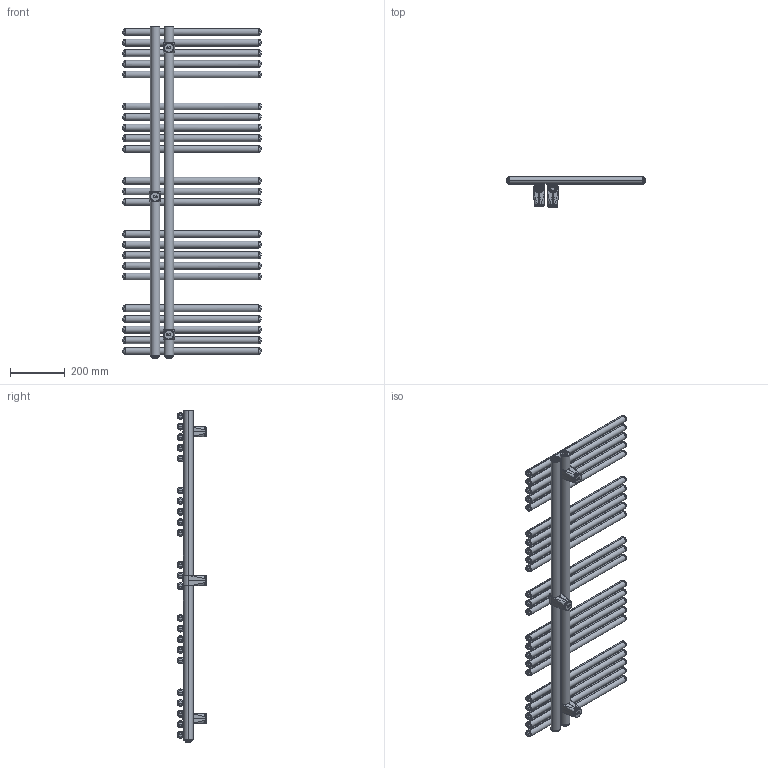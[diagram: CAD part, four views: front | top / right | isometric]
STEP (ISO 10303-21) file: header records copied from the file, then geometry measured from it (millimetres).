
FILE_DESCRIPTION (( 'STEP AP203' ), '1' );
FILE_NAME ('515012.STEP', '2026-03-05T13:28:23', ( '' ), ( '' ), 'SwSTEP 2.0', 'SolidWorks 2025', '' );
FILE_SCHEMA (( 'CONFIG_CONTROL_DESIGN' ));
Length unit declared in the file: millimetre
Products named in the file (12): supporto-MANINA-BUS; TAPPO-FILETTATO-1-2; supporto_1.prt; supporto.asm; 515012; tappo_sx.prt.prt; COLLETTORE-DOUBL; TRAVERSINO-DOUBLE; supporto_3.prt; tappo_sfiato.prt; ASSIEME-COLLETTORE-DOUBLE; supporto_2.prt
Assembly tree (37 placements, depth 4):
  515012
    ASSIEME-COLLETTORE-DOUBLE  x2
      COLLETTORE-DOUBL
      TAPPO-FILETTATO-1-2
    TRAVERSINO-DOUBLE  x23
    supporto-MANINA-BUS  x3
      supporto.asm
        supporto_1.prt
        supporto_2.prt
        supporto_3.prt
    tappo_sx.prt.prt
    tappo_sfiato.prt
Bounding box: 510 x 109.5 x 1218 mm (x, y, z)
Volume: 1623309.7 mm3; surface area: 2353038.5 mm2
Topology: 39 solids, 41 shells, 1428 faces, 3506 edges, 2204 vertices
Faces by surface type: cylinder 526, bspline 267, sphere 226, torus 202, plane 187, cone 20
Entity records: 31523 total; most frequent: CARTESIAN_POINT 19606, ORIENTED_EDGE 2354, DIRECTION 1570, EDGE_CURVE 1178, VERTEX_POINT 734, AXIS2_PLACEMENT_3D 653, B_SPLINE_CURVE_WITH_KNOTS 627, EDGE_LOOP 539
